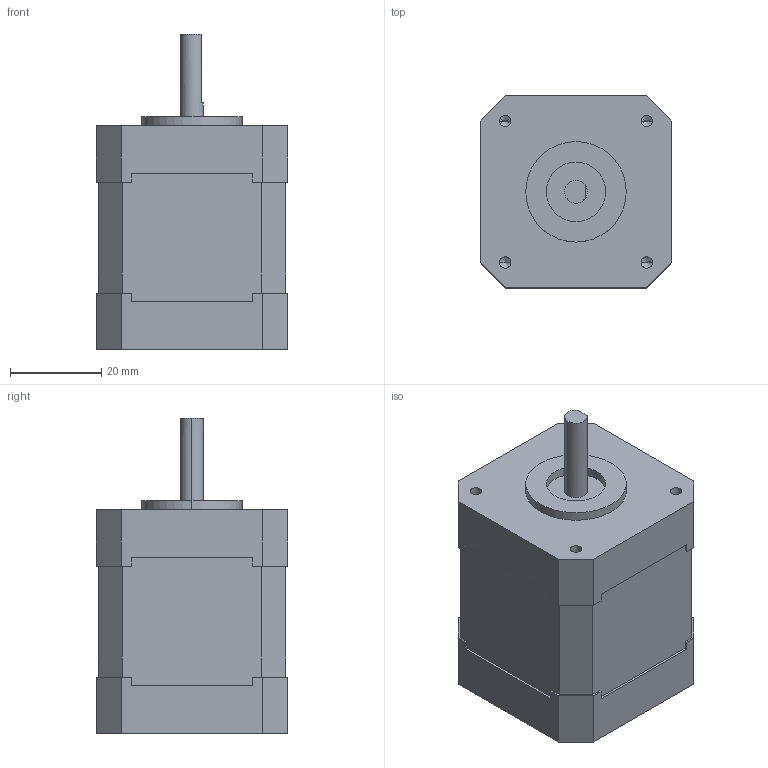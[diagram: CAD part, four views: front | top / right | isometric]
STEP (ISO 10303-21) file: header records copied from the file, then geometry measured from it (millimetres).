
FILE_DESCRIPTION (( 'STEP AP214' ), '1' );
FILE_NAME ('TS3617N503.STEP', '2016-09-08T08:29:50', ( 'hoho' ), ( '' ), 'SwSTEP 2.0', 'SolidWorks 2013', '' );
FILE_SCHEMA (( 'AUTOMOTIVE_DESIGN' ));
Length unit declared in the file: millimetre
Products named in the file (1): TS3617N503
Bounding box: 42 x 42 x 69 mm (x, y, z)
Volume: 82189.8 mm3; surface area: 11770.7 mm2
Topology: 1 solids, 1 shells, 85 faces, 232 edges, 148 vertices
Faces by surface type: plane 63, cylinder 14, cone 8
Entity records: 2806 total; most frequent: CARTESIAN_POINT 458, ORIENTED_EDGE 448, DIRECTION 426, EDGE_CURVE 224, VECTOR 194, LINE 194, VERTEX_POINT 148, AXIS2_PLACEMENT_3D 116
